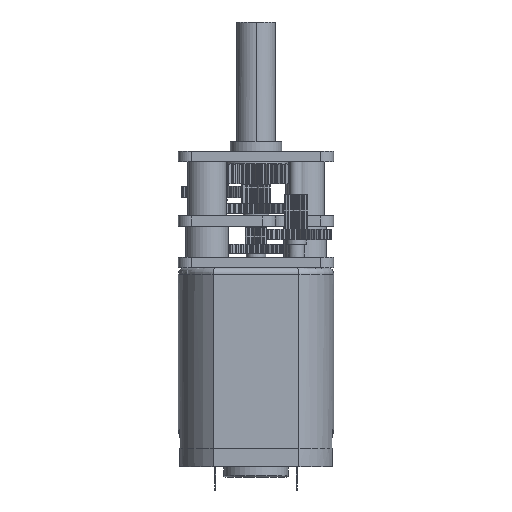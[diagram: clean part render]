
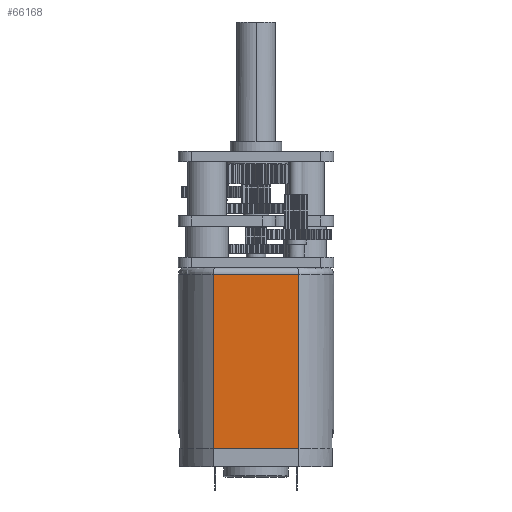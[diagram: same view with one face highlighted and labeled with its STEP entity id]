
A CAD part, front view. The second image highlights one B-rep face of the part: STEP entity #66168.
In plain terms, the highlighted planar face has unit normal (0, -1, 0).
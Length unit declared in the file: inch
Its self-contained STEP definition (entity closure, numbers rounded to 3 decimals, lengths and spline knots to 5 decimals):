
#3498 = CARTESIAN_POINT ( 'NONE',  ( -0.13057, -0.19683, -0.55118 ) ) ;
#5617 = VERTEX_POINT ( 'NONE', #73106 ) ;
#5938 = VERTEX_POINT ( 'NONE', #75661 ) ;
#7809 = CARTESIAN_POINT ( 'NONE',  ( 0., -0.19685, -0.01969 ) ) ;
#8484 = CARTESIAN_POINT ( 'NONE',  ( -0.13058, -0.19685, -0.55118 ) ) ;
#9306 = EDGE_CURVE ( 'NONE', #5617, #5938, #34063, .T. ) ;
#10678 = ORIENTED_EDGE ( 'NONE', *, *, #9306, .T. ) ;
#11335 = VECTOR ( 'NONE', #69735, 39.37008 ) ;
#12715 = DIRECTION ( 'NONE',  ( -1., 0., 0. ) ) ;
#12828 = VERTEX_POINT ( 'NONE', #109032 ) ;
#14360 = CARTESIAN_POINT ( 'NONE',  ( -0.04352, -0.19685, -0.55118 ) ) ;
#14778 = ORIENTED_EDGE ( 'NONE', *, *, #36818, .T. ) ;
#19440 = EDGE_CURVE ( 'NONE', #12828, #5617, #82226, .T. ) ;
#25515 = CARTESIAN_POINT ( 'NONE',  ( -0.13058, -0.19685, -0.01969 ) ) ;
#28815 = LINE ( 'NONE', #8484, #11335 ) ;
#30863 = EDGE_LOOP ( 'NONE', ( #10678, #14778, #48362, #104689 ) ) ;
#33001 = EDGE_CURVE ( 'NONE', #12828, #63608, #28815, .T. ) ;
#34063 = LINE ( 'NONE', #64169, #42577 ) ;
#36818 = EDGE_CURVE ( 'NONE', #5938, #63608, #58812, .T. ) ;
#42281 = DIRECTION ( 'NONE',  ( 0., 0., 1. ) ) ;
#42577 = VECTOR ( 'NONE', #42281, 39.37008 ) ;
#46238 = CARTESIAN_POINT ( 'NONE',  ( 0.04352, -0.19685, -0.55118 ) ) ;
#48362 = ORIENTED_EDGE ( 'NONE', *, *, #33001, .F. ) ;
#57855 = CARTESIAN_POINT ( 'NONE',  ( 0.13057, -0.19683, -0.55118 ) ) ;
#58812 = LINE ( 'NONE', #7809, #96729 ) ;
#63608 = VERTEX_POINT ( 'NONE', #25515 ) ;
#64169 = CARTESIAN_POINT ( 'NONE',  ( 0.13058, -0.19685, -0.55118 ) ) ;
#66168 = ADVANCED_FACE ( 'NONE', ( #81549 ), #99961, .T. ) ;
#69735 = DIRECTION ( 'NONE',  ( 0., 0., 1. ) ) ;
#73106 = CARTESIAN_POINT ( 'NONE',  ( 0.13057, -0.19683, -0.55118 ) ) ;
#75661 = CARTESIAN_POINT ( 'NONE',  ( 0.13058, -0.19685, -0.01969 ) ) ;
#81549 = FACE_OUTER_BOUND ( 'NONE', #30863, .T. ) ;
#82226 = B_SPLINE_CURVE_WITH_KNOTS ( 'NONE', 3,
 ( #3498, #14360, #46238, #57855 ),
 .UNSPECIFIED., .F., .F.,
 ( 4, 4 ),
 ( 0., 1. ),
 .UNSPECIFIED. ) ;
#96729 = VECTOR ( 'NONE', #111255, 39.37008 ) ;
#98764 = AXIS2_PLACEMENT_3D ( 'NONE', #123771, #106036, #12715 ) ;
#99961 = PLANE ( 'NONE',  #98764 ) ;
#104689 = ORIENTED_EDGE ( 'NONE', *, *, #19440, .T. ) ;
#106036 = DIRECTION ( 'NONE',  ( 0., -1., 0. ) ) ;
#109032 = CARTESIAN_POINT ( 'NONE',  ( -0.13057, -0.19683, -0.55118 ) ) ;
#111255 = DIRECTION ( 'NONE',  ( -1., 0., 0. ) ) ;
#123771 = CARTESIAN_POINT ( 'NONE',  ( 0., -0.19685, -0.55118 ) ) ;
